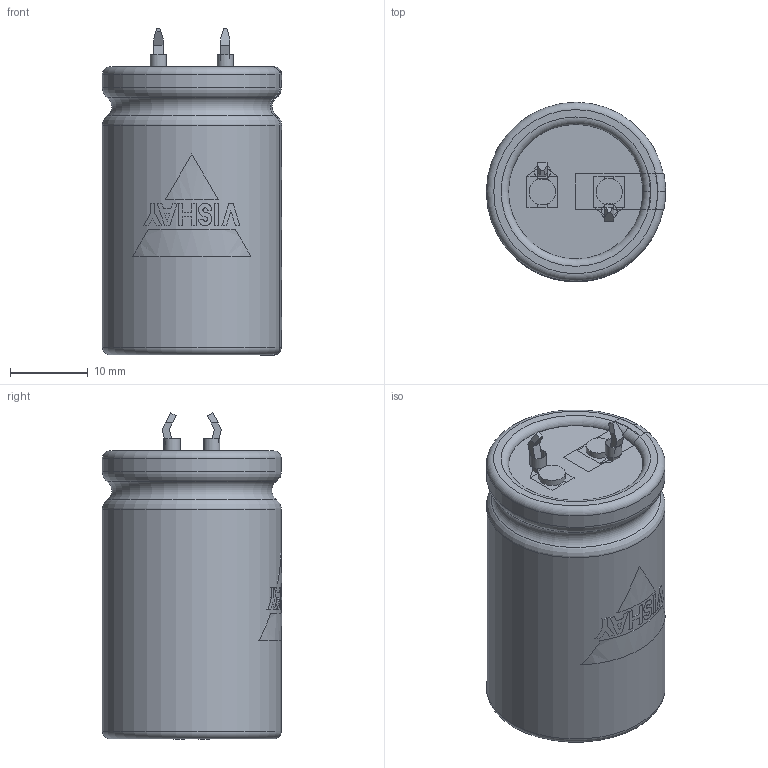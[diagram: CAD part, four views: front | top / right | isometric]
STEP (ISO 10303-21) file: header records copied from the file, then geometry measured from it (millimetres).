
FILE_DESCRIPTION(('FreeCAD Model'),'2;1');
FILE_NAME( 'C:/Users/Gebruiker/Documents/FreeCAD/SnapIn_22x35_2pin_4.0.step', '2020-11-12T19:53:12',('Author'),(''), 'Open CASCADE STEP processor 6.8','FreeCAD','Unknown');
FILE_SCHEMA(('AUTOMOTIVE_DESIGN_CC2 { 1 2 10303 214 -1 1 5 4 }'));
Length unit declared in the file: millimetre
Products named in the file (9): ASSEMBLY; TerminalMin; TerminalPlus; PCBHoles; Disc; BottomInsulation; Can3D; InkMinusBar; InkLogo
Assembly tree (8 placements, depth 2):
  ASSEMBLY
    TerminalMin
    TerminalPlus
    PCBHoles
    Disc
    BottomInsulation
    Can3D
    InkMinusBar
    InkLogo
Bounding box: 23.05 x 23.05 x 41.95 mm (x, y, z)
Volume: 17221 mm3; surface area: 8213.4 mm2
Topology: 16 solids, 16 shells, 197 faces, 488 edges, 320 vertices
Faces by surface type: plane 150, cylinder 29, torus 18
Full cylindrical faces by diameter (mm): 2 x2, 2.1 x2, 3.4 x2, 17.3 x1, 18.4 x2, 23 x2
Entity records: 20393 total; most frequent: CARTESIAN_POINT 9478, DIRECTION 1702, ORIENTED_EDGE 976, PCURVE 976, DEFINITIONAL_REPRESENTATION 976, LINE 949, VECTOR 949, EDGE_CURVE 488
